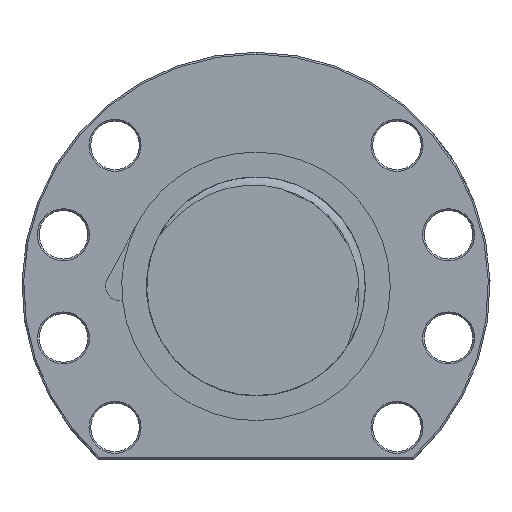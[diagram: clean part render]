
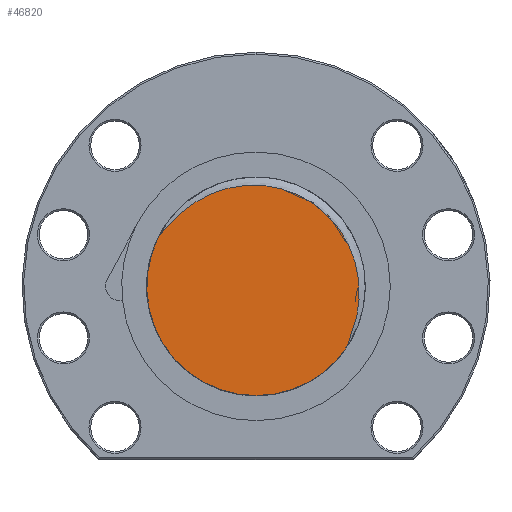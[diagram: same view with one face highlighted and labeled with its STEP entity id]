
A CAD part, left-side view. The second image highlights one B-rep face of the part: STEP entity #46820.
In plain terms, the highlighted planar face has unit normal (-1, 0, 0).
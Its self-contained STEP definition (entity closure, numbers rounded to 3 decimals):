
#30424 = CARTESIAN_POINT ( 'NONE',  ( -224., 28.085, 14.264 ) ) ;
#30569 = DIRECTION ( 'NONE',  ( 0., 1., 0. ) ) ;
#30570 = DIRECTION ( 'NONE',  ( 1., 0., 0. ) ) ;
#30571 = CARTESIAN_POINT ( 'NONE',  ( -224., 0., 0. ) ) ;
#30572 = AXIS2_PLACEMENT_3D ( 'NONE', #30571, #30570, #30569 ) ;
#30573 = CIRCLE ( 'NONE', #30572, 31.5 ) ;
#30574 = CARTESIAN_POINT ( 'NONE',  ( -224., 0., -31.5 ) ) ;
#33207 = CARTESIAN_POINT ( 'NONE',  ( -224., -29.571, 2.47 ) ) ;
#33208 = CARTESIAN_POINT ( 'NONE',  ( -224., -29.737, -0.05 ) ) ;
#33209 = CARTESIAN_POINT ( 'NONE',  ( -224., -29.758, -0.558 ) ) ;
#33210 = CARTESIAN_POINT ( 'NONE',  ( -224., -29.778, -1.569 ) ) ;
#33211 = CARTESIAN_POINT ( 'NONE',  ( -224., -29.775, -2.073 ) ) ;
#33212 = CARTESIAN_POINT ( 'NONE',  ( -224., -29.734, -3.581 ) ) ;
#33213 = CARTESIAN_POINT ( 'NONE',  ( -224., -29.662, -4.579 ) ) ;
#33214 = CARTESIAN_POINT ( 'NONE',  ( -224., -29.314, -7.554 ) ) ;
#33215 = CARTESIAN_POINT ( 'NONE',  ( -224., -28.906, -9.512 ) ) ;
#33216 = CARTESIAN_POINT ( 'NONE',  ( -224., -28.073, -12.416 ) ) ;
#33217 = CARTESIAN_POINT ( 'NONE',  ( -224., -27.757, -13.38 ) ) ;
#33218 = CARTESIAN_POINT ( 'NONE',  ( -224., -27.252, -14.81 ) ) ;
#33219 = CARTESIAN_POINT ( 'NONE',  ( -224., -27.078, -15.285 ) ) ;
#33220 = CARTESIAN_POINT ( 'NONE',  ( -224., -26.729, -16.235 ) ) ;
#33221 = CARTESIAN_POINT ( 'NONE',  ( -224., -26.553, -16.709 ) ) ;
#33222 = CARTESIAN_POINT ( 'NONE',  ( -224., -26.396, -17.19 ) ) ;
#33223 = B_SPLINE_CURVE_WITH_KNOTS ( 'NONE', 3,
 ( #33222, #33221, #33220, #33219, #33218, #33217, #33216, #33215, #33214, #33213, #33212, #33211, #33210, #33209, #33208, #33207, #33297, #33296, #33295, #33294, #33293, #33292, #33291, #33290, #33289, #33288, #33287, #33286, #33284, #33283, #33282, #33281, #33280, #33279, #33277, #33276, #33275, #33274, #33273, #33272, #33271, #33270, #33269, #33268, #33267, #33266, #33265, #33264, #33263, #33262, #33261, #33260, #33259, #33258, #33257, #33256, #33255, #33254, #33253, #33252, #33251, #33250, #33249, #33248, #33247, #33329 ),
 .UNSPECIFIED., .F., .F.,
 ( 4, 2, 2, 2, 2, 2, 2, 2, 2, 2, 2, 2, 2, 2, 2, 2, 2, 2, 2, 2, 2, 2, 2, 2, 2, 2, 2, 2, 2, 2, 2, 2, 4 ),
 ( 0.011, 0.012, 0.014, 0.017, 0.023, 0.026, 0.027, 0.029, 0.035, 0.038, 0.039, 0.041, 0.047, 0.05, 0.051, 0.053, 0.059, 0.06, 0.062, 0.065, 0.071, 0.074, 0.077, 0.08, 0.083, 0.089, 0.09, 0.092, 0.095, 0.101, 0.104, 0.105, 0.107 ),
 .UNSPECIFIED. ) ;
#33224 = FACE_OUTER_BOUND ( 'NONE', #46822, .T. ) ;
#33247 = CARTESIAN_POINT ( 'NONE',  ( -224., 27.747, 14.64 ) ) ;
#33248 = CARTESIAN_POINT ( 'NONE',  ( -224., 27.424, 15.031 ) ) ;
#33249 = CARTESIAN_POINT ( 'NONE',  ( -224., 26.775, 15.808 ) ) ;
#33250 = CARTESIAN_POINT ( 'NONE',  ( -224., 26.451, 16.197 ) ) ;
#33251 = CARTESIAN_POINT ( 'NONE',  ( -224., 25.464, 17.351 ) ) ;
#33252 = CARTESIAN_POINT ( 'NONE',  ( -224., 24.786, 18.107 ) ) ;
#33253 = CARTESIAN_POINT ( 'NONE',  ( -224., 22.683, 20.285 ) ) ;
#33254 = CARTESIAN_POINT ( 'NONE',  ( -224., 21.185, 21.622 ) ) ;
#33255 = CARTESIAN_POINT ( 'NONE',  ( -224., 18.766, 23.421 ) ) ;
#33256 = CARTESIAN_POINT ( 'NONE',  ( -224., 17.931, 23.986 ) ) ;
#33257 = CARTESIAN_POINT ( 'NONE',  ( -224., 16.633, 24.779 ) ) ;
#33258 = CARTESIAN_POINT ( 'NONE',  ( -224., 16.194, 25.034 ) ) ;
#33259 = CARTESIAN_POINT ( 'NONE',  ( -224., 15.309, 25.521 ) ) ;
#33260 = CARTESIAN_POINT ( 'NONE',  ( -224., 14.862, 25.753 ) ) ;
#33261 = CARTESIAN_POINT ( 'NONE',  ( -224., 12.606, 26.86 ) ) ;
#33262 = CARTESIAN_POINT ( 'NONE',  ( -224., 10.732, 27.572 ) ) ;
#33263 = CARTESIAN_POINT ( 'NONE',  ( -224., 7.813, 28.367 ) ) ;
#33264 = CARTESIAN_POINT ( 'NONE',  ( -224., 6.817, 28.587 ) ) ;
#33265 = CARTESIAN_POINT ( 'NONE',  ( -224., 4.827, 28.925 ) ) ;
#33266 = CARTESIAN_POINT ( 'NONE',  ( -224., 3.83, 29.045 ) ) ;
#33267 = CARTESIAN_POINT ( 'NONE',  ( -224., 1.83, 29.187 ) ) ;
#33268 = CARTESIAN_POINT ( 'NONE',  ( -224., 0.828, 29.209 ) ) ;
#33269 = CARTESIAN_POINT ( 'NONE',  ( -224., -1.181, 29.153 ) ) ;
#33270 = CARTESIAN_POINT ( 'NONE',  ( -224., -2.19, 29.076 ) ) ;
#33271 = CARTESIAN_POINT ( 'NONE',  ( -224., -5.21, 28.692 ) ) ;
#33272 = CARTESIAN_POINT ( 'NONE',  ( -224., -7.165, 28.24 ) ) ;
#33273 = CARTESIAN_POINT ( 'NONE',  ( -224., -10.015, 27.278 ) ) ;
#33274 = CARTESIAN_POINT ( 'NONE',  ( -224., -10.95, 26.909 ) ) ;
#33275 = CARTESIAN_POINT ( 'NONE',  ( -224., -12.332, 26.283 ) ) ;
#33276 = CARTESIAN_POINT ( 'NONE',  ( -224., -12.791, 26.062 ) ) ;
#33277 = CARTESIAN_POINT ( 'NONE',  ( -224., -13.691, 25.598 ) ) ;
#33279 = CARTESIAN_POINT ( 'NONE',  ( -224., -14.134, 25.356 ) ) ;
#33280 = CARTESIAN_POINT ( 'NONE',  ( -224., -16.31, 24.094 ) ) ;
#33281 = CARTESIAN_POINT ( 'NONE',  ( -224., -17.933, 22.921 ) ) ;
#33282 = CARTESIAN_POINT ( 'NONE',  ( -224., -19.816, 21.253 ) ) ;
#33283 = CARTESIAN_POINT ( 'NONE',  ( -224., -20.186, 20.909 ) ) ;
#33284 = CARTESIAN_POINT ( 'NONE',  ( -224., -20.909, 20.201 ) ) ;
#33286 = CARTESIAN_POINT ( 'NONE',  ( -224., -21.264, 19.836 ) ) ;
#33287 = CARTESIAN_POINT ( 'NONE',  ( -224., -22.294, 18.722 ) ) ;
#33288 = CARTESIAN_POINT ( 'NONE',  ( -224., -22.937, 17.951 ) ) ;
#33289 = CARTESIAN_POINT ( 'NONE',  ( -224., -24.747, 15.552 ) ) ;
#33290 = CARTESIAN_POINT ( 'NONE',  ( -224., -25.793, 13.843 ) ) ;
#33291 = CARTESIAN_POINT ( 'NONE',  ( -224., -26.893, 11.564 ) ) ;
#33292 = CARTESIAN_POINT ( 'NONE',  ( -224., -27.103, 11.101 ) ) ;
#33293 = CARTESIAN_POINT ( 'NONE',  ( -224., -27.496, 10.17 ) ) ;
#33294 = CARTESIAN_POINT ( 'NONE',  ( -224., -27.681, 9.702 ) ) ;
#33295 = CARTESIAN_POINT ( 'NONE',  ( -224., -28.199, 8.288 ) ) ;
#33296 = CARTESIAN_POINT ( 'NONE',  ( -224., -28.497, 7.335 ) ) ;
#33297 = CARTESIAN_POINT ( 'NONE',  ( -224., -29.252, 4.442 ) ) ;
#33324 = DIRECTION ( 'NONE',  ( 0., 0., -1. ) ) ;
#33325 = DIRECTION ( 'NONE',  ( 1., 0., 0. ) ) ;
#33326 = CARTESIAN_POINT ( 'NONE',  ( -224., 0., 0. ) ) ;
#33327 = AXIS2_PLACEMENT_3D ( 'NONE', #33326, #33325, #33324 ) ;
#33328 = PLANE ( 'NONE',  #33327 ) ;
#33329 = CARTESIAN_POINT ( 'NONE',  ( -224., 28.085, 14.264 ) ) ;
#41943 = AXIS2_PLACEMENT_3D ( 'NONE', #42048, #42047, #42046 ) ;
#41948 = CARTESIAN_POINT ( 'NONE',  ( -224., -26.396, -17.19 ) ) ;
#41962 = CIRCLE ( 'NONE', #41943, 31.5 ) ;
#42046 = DIRECTION ( 'NONE',  ( 0., 1., 0. ) ) ;
#42047 = DIRECTION ( 'NONE',  ( 1., 0., 0. ) ) ;
#42048 = CARTESIAN_POINT ( 'NONE',  ( -224., 0., 0. ) ) ;
#46158 = VERTEX_POINT ( 'NONE', #30424 ) ;
#46175 = VERTEX_POINT ( 'NONE', #30574 ) ;
#46177 = EDGE_CURVE ( 'NONE', #46175, #46158, #30573, .T. ) ;
#46815 = EDGE_CURVE ( 'NONE', #47016, #46158, #33223, .T. ) ;
#46818 = ORIENTED_EDGE ( 'NONE', *, *, #46815, .T. ) ;
#46820 = ADVANCED_FACE ( 'NONE', ( #33224 ), #33328, .F. ) ;
#46822 = EDGE_LOOP ( 'NONE', ( #46823, #46818, #46830 ) ) ;
#46823 = ORIENTED_EDGE ( 'NONE', *, *, #47019, .F. ) ;
#46830 = ORIENTED_EDGE ( 'NONE', *, *, #46177, .F. ) ;
#47016 = VERTEX_POINT ( 'NONE', #41948 ) ;
#47019 = EDGE_CURVE ( 'NONE', #47016, #46175, #41962, .T. ) ;
